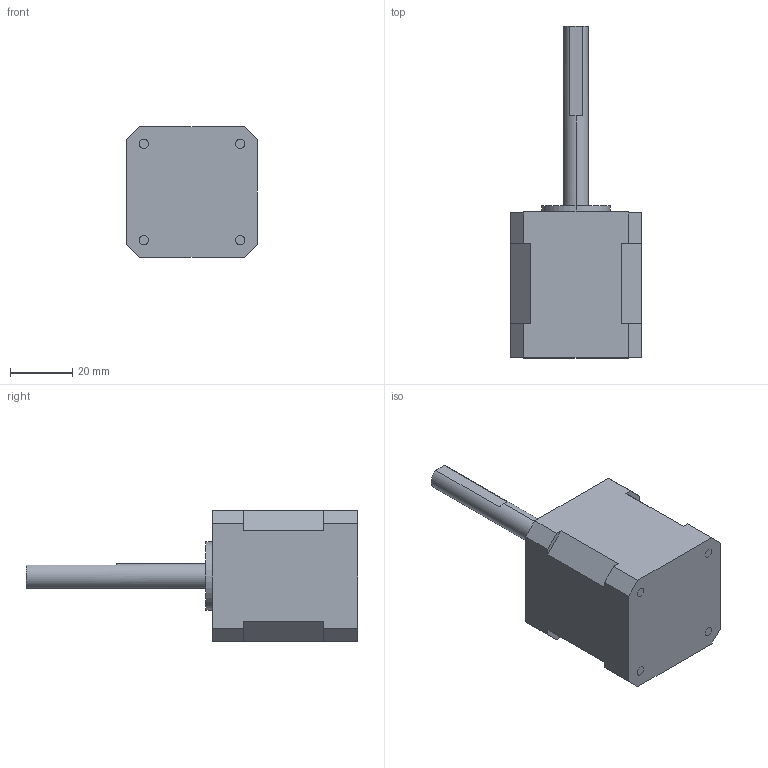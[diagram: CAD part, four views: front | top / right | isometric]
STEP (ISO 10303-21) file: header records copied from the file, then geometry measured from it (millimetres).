
FILE_DESCRIPTION (( 'STEP AP214' ), '1' );
FILE_NAME ('42A03-60GK-8£¨42HS47-D0860-004£©.STEP', '2020-04-27T10:07:04', ( 'wimxt.com' ), ( 'wimxt.com' ), 'SwSTEP 2.0', 'SolidWorks 2014', '' );
FILE_SCHEMA (( 'AUTOMOTIVE_DESIGN' ));
Length unit declared in the file: millimetre
Products named in the file (1): 42A03-60GK-8（42HS47-D0860-004）
Bounding box: 42 x 107 x 42 mm (x, y, z)
Volume: 82482.7 mm3; surface area: 14207.6 mm2
Topology: 1 solids, 1 shells, 46 faces, 114 edges, 76 vertices
Faces by surface type: plane 34, cylinder 12
Entity records: 1398 total; most frequent: CARTESIAN_POINT 237, DIRECTION 234, ORIENTED_EDGE 228, EDGE_CURVE 114, LINE 88, VECTOR 88, VERTEX_POINT 76, AXIS2_PLACEMENT_3D 73
